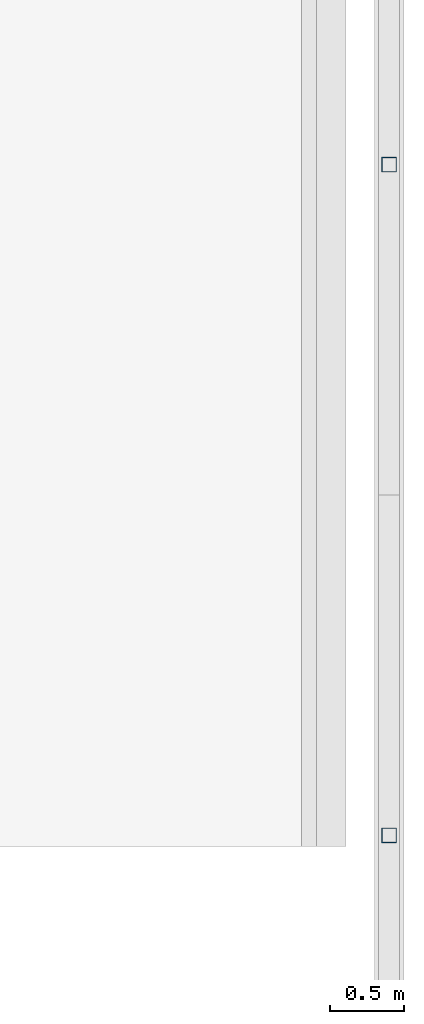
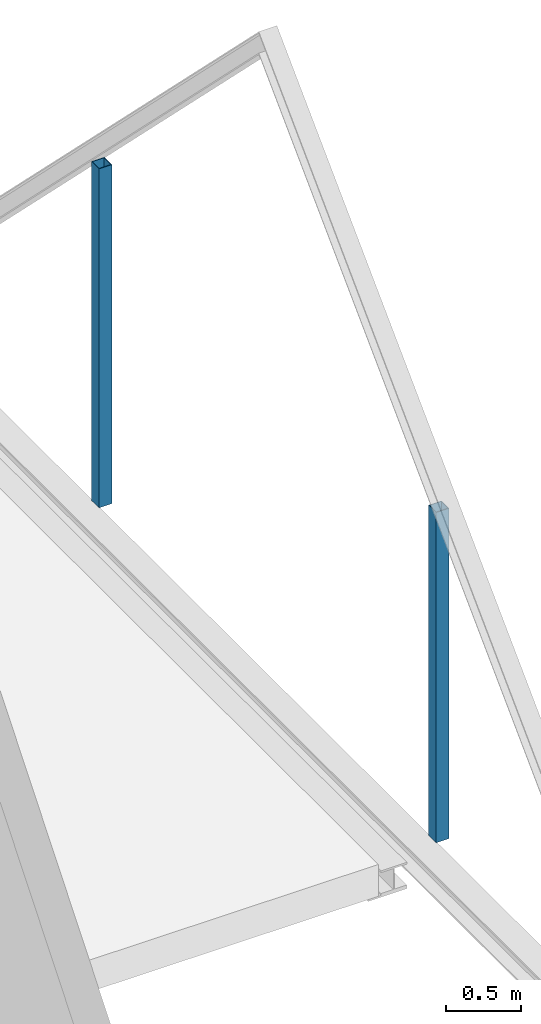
# One storey, part 4 of 14: 2 columns.
"""IFC2X3 building model written with IfcOpenShell, lengths in millimetres."""

from ifc_helpers import new_model, entity, si_unit, converted_unit, derived_unit, direction, frame, origin, place, context, subcontext, project, spatial, polyline, outline, extrude, source, transform, mapped, material, type_object, type_shapes, element, save


model = new_model("IFC2X3")

# Units and contexts
model_context = context("Model", 3, precision=0.01, world=origin(), true_north=direction((6.123031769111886e-17, 1.0)))
body_context = subcontext(model_context, "Body", "Model", "MODEL_VIEW")
ifc_project = project(units=[si_unit("LENGTHUNIT", "METRE", prefix="MILLI"), si_unit("AREAUNIT", "SQUARE_METRE", prefix="MILLI"), si_unit("VOLUMEUNIT", "CUBIC_METRE"), converted_unit("PLANEANGLEUNIT", "DEGREE", entity("IfcPlaneAngleMeasure", 0.017453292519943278), si_unit("PLANEANGLEUNIT", "RADIAN"), dimensions=[0, 0, 0, 0, 0, 0, 0]), si_unit("MASSUNIT", "GRAM", prefix="KILO"), derived_unit("MASSDENSITYUNIT", [(si_unit("MASSUNIT", "GRAM", prefix="KILO"), 1), (si_unit("LENGTHUNIT", "METRE"), -3)]), derived_unit("IONCONCENTRATIONUNIT", [(si_unit("MASSUNIT", "GRAM", prefix="KILO"), 1), (si_unit("LENGTHUNIT", "METRE"), -3)]), derived_unit("MOMENTOFINERTIAUNIT", [(si_unit("LENGTHUNIT", "METRE"), 4)]), si_unit("TIMEUNIT", "SECOND"), si_unit("FREQUENCYUNIT", "HERTZ"), si_unit("THERMODYNAMICTEMPERATUREUNIT", "DEGREE_CELSIUS"), derived_unit("THERMALTRANSMITTANCEUNIT", [(si_unit("MASSUNIT", "GRAM", prefix="KILO"), 1), (si_unit("THERMODYNAMICTEMPERATUREUNIT", "KELVIN"), -1), (si_unit("TIMEUNIT", "SECOND"), -3)]), derived_unit("THERMALCONDUCTANCEUNIT", [(si_unit("MASSUNIT", "GRAM", prefix="KILO"), 1), (si_unit("THERMODYNAMICTEMPERATUREUNIT", "KELVIN"), -1), (si_unit("TIMEUNIT", "SECOND"), -3), (si_unit("LENGTHUNIT", "METRE"), 1)]), derived_unit("VOLUMETRICFLOWRATEUNIT", [(si_unit("LENGTHUNIT", "METRE", prefix="DECI"), 3), (si_unit("TIMEUNIT", "SECOND"), -1)]), derived_unit("MASSFLOWRATEUNIT", [(si_unit("MASSUNIT", "GRAM", prefix="KILO"), 1), (si_unit("TIMEUNIT", "SECOND"), -1)]), derived_unit("ROTATIONALFREQUENCYUNIT", [(si_unit("TIMEUNIT", "SECOND"), -1)]), si_unit("ELECTRICCURRENTUNIT", "AMPERE"), si_unit("ELECTRICVOLTAGEUNIT", "VOLT"), si_unit("POWERUNIT", "WATT"), si_unit("FORCEUNIT", "NEWTON", prefix="KILO"), si_unit("ILLUMINANCEUNIT", "LUX"), si_unit("LUMINOUSFLUXUNIT", "LUMEN"), si_unit("LUMINOUSINTENSITYUNIT", "CANDELA"), si_unit("ENERGYUNIT", "JOULE"), derived_unit("USERDEFINED", [(si_unit("MASSUNIT", "GRAM", prefix="KILO"), -1), (si_unit("LENGTHUNIT", "METRE"), -2), (si_unit("TIMEUNIT", "SECOND"), 3), (si_unit("LUMINOUSFLUXUNIT", "LUMEN"), 1)]), derived_unit("USERDEFINED", [(si_unit("MASSUNIT", "GRAM", prefix="KILO"), 1), (si_unit("TIMEUNIT", "SECOND"), -3), (si_unit("LENGTHUNIT", "METRE"), 3), (si_unit("ELECTRICCURRENTUNIT", "AMPERE"), -2)]), derived_unit("SOUNDPOWERUNIT", [(si_unit("MASSUNIT", "GRAM", prefix="KILO"), 1), (si_unit("TIMEUNIT", "SECOND"), -3), (si_unit("LENGTHUNIT", "METRE"), 2)]), derived_unit("SOUNDPRESSUREUNIT", [(si_unit("MASSUNIT", "GRAM", prefix="KILO"), 1), (si_unit("LENGTHUNIT", "METRE"), -1), (si_unit("TIMEUNIT", "SECOND"), -2)]), derived_unit("LINEARVELOCITYUNIT", [(si_unit("LENGTHUNIT", "METRE"), 1), (si_unit("TIMEUNIT", "SECOND"), -1)]), si_unit("PRESSUREUNIT", "PASCAL"), derived_unit("USERDEFINED", [(si_unit("MASSUNIT", "GRAM", prefix="KILO"), 1), (si_unit("LENGTHUNIT", "METRE"), -2), (si_unit("TIMEUNIT", "SECOND"), -2)]), derived_unit("LINEARFORCEUNIT", [(si_unit("MASSUNIT", "GRAM", prefix="KILO"), 1), (si_unit("TIMEUNIT", "SECOND"), -2)]), derived_unit("PLANARFORCEUNIT", [(si_unit("MASSUNIT", "GRAM", prefix="KILO"), 1), (si_unit("LENGTHUNIT", "METRE"), -1), (si_unit("TIMEUNIT", "SECOND"), -2)]), derived_unit("SPECIFICHEATCAPACITYUNIT", [(si_unit("THERMODYNAMICTEMPERATUREUNIT", "KELVIN"), -1), (si_unit("LENGTHUNIT", "METRE"), 2), (si_unit("TIMEUNIT", "SECOND"), -2)]), derived_unit("HEATFLUXDENSITYUNIT", [(si_unit("MASSUNIT", "GRAM", prefix="KILO"), 1), (si_unit("TIMEUNIT", "SECOND"), -3)]), derived_unit("HEATINGVALUEUNIT", [(si_unit("LENGTHUNIT", "METRE"), 2), (si_unit("TIMEUNIT", "SECOND"), -2)]), derived_unit("VAPORPERMEABILITYUNIT", [(si_unit("LENGTHUNIT", "METRE"), -1), (si_unit("TIMEUNIT", "SECOND"), 1)]), derived_unit("DYNAMICVISCOSITYUNIT", [(si_unit("MASSUNIT", "GRAM", prefix="KILO"), 1), (si_unit("TIMEUNIT", "SECOND"), -1), (si_unit("LENGTHUNIT", "METRE"), -1)]), derived_unit("THERMALEXPANSIONCOEFFICIENTUNIT", [(si_unit("THERMODYNAMICTEMPERATUREUNIT", "KELVIN"), -1)]), derived_unit("MODULUSOFELASTICITYUNIT", [(si_unit("MASSUNIT", "GRAM", prefix="KILO"), 1), (si_unit("LENGTHUNIT", "METRE"), -1), (si_unit("TIMEUNIT", "SECOND"), -2)]), derived_unit("ISOTHERMALMOISTURECAPACITYUNIT", [(si_unit("MASSUNIT", "GRAM", prefix="KILO"), -1), (si_unit("LENGTHUNIT", "METRE"), 3)]), derived_unit("MOISTUREDIFFUSIVITYUNIT", [(si_unit("TIMEUNIT", "SECOND"), -1), (si_unit("LENGTHUNIT", "METRE"), 2)]), derived_unit("MASSPERLENGTHUNIT", [(si_unit("MASSUNIT", "GRAM", prefix="KILO"), 1), (si_unit("LENGTHUNIT", "METRE"), -1)]), derived_unit("THERMALRESISTANCEUNIT", [(si_unit("MASSUNIT", "GRAM", prefix="KILO"), -1), (si_unit("TIMEUNIT", "SECOND"), 3), (si_unit("THERMODYNAMICTEMPERATUREUNIT", "KELVIN"), 1)]), derived_unit("ACCELERATIONUNIT", [(si_unit("LENGTHUNIT", "METRE"), 1), (si_unit("TIMEUNIT", "SECOND"), -2)]), derived_unit("ANGULARVELOCITYUNIT", [(si_unit("TIMEUNIT", "SECOND"), -1), (si_unit("PLANEANGLEUNIT", "RADIAN"), 1)]), derived_unit("LINEARSTIFFNESSUNIT", [(si_unit("MASSUNIT", "GRAM", prefix="KILO"), 1), (si_unit("TIMEUNIT", "SECOND"), -2)]), derived_unit("WARPINGCONSTANTUNIT", [(si_unit("LENGTHUNIT", "METRE"), 6)]), derived_unit("LINEARMOMENTUNIT", [(si_unit("MASSUNIT", "GRAM", prefix="KILO"), 1), (si_unit("LENGTHUNIT", "METRE"), 1), (si_unit("TIMEUNIT", "SECOND"), -2)]), derived_unit("TORQUEUNIT", [(si_unit("MASSUNIT", "GRAM", prefix="KILO"), 1), (si_unit("LENGTHUNIT", "METRE"), 2), (si_unit("TIMEUNIT", "SECOND"), -2)])], contexts=[model_context])

# Site, building, storey
site_placement = place(None, origin())
site = spatial("IfcSite", under=ifc_project, at=site_placement, Name="Default", CompositionType="ELEMENT")
building_placement = place(site_placement, origin())
building = spatial("IfcBuilding", under=site, at=building_placement, CompositionType="ELEMENT")
storey_placement = place(building_placement, frame((0.0, 0.0, 3730.0)))
storey = spatial("IfcBuildingStorey", under=building, at=storey_placement, Name="V1 1e verd. (bk ruwe vloer)", CompositionType="ELEMENT", Elevation=3729.9999999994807)

# Columns
ifc_material = material(Name="Metal - Steel - S275 J0H (standaard-kokers/buizen)")
column_type_1 = type_object("IfcColumnType", Name="btk_staal - Koker:K100x100x5.0", PredefinedType="COLUMN", material=ifc_material)
shared_shape_1 = source(origin(), body_context, "Body", "SweptSolid", [
    extrude(outline(polyline([(-50.0, -50.0), (50.0, -50.0), (50.0, 50.0), (-50.0, 50.0), (-50.0, -50.0)]), holes=[polyline([(-45.0, -45.0), (-45.0, 45.0), (45.0, 45.0), (45.0, -45.0), (-45.0, -45.0)])]), frame((34439.97719495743, 35197.84751726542, 3730.0), z_axis=(0.0, 0.0, 1.0), x_axis=(-1.0, 0.0, 0.0)), (0.0, 0.0, 1.0), 2698.1565918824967),
])
type_shapes(column_type_1, [shared_shape_1])
column_1_placement = place(storey_placement, frame((0.0, 0.0, -3730.0)))
element("IfcColumn", 1, at=column_1_placement, inside=storey, type_object=column_type_1, material=ifc_material, Name="btk_staal - Koker:K100x100x5.0", ObjectType="btk_staal - Koker:K100x100x5.0", context=body_context, shape_type="MappedRepresentation", body=[
    mapped(shared_shape_1, transform((0.0, 0.0, 0.0), scale=1.0)),
])
column_type_2 = type_object("IfcColumnType", Name="btk_staal - Koker:K100x100x5.0", PredefinedType="COLUMN", material=ifc_material)
shared_shape_2 = source(origin(), body_context, "Body", "SweptSolid", [
    extrude(outline(polyline([(-50.0, -50.0), (50.0, -50.0), (50.0, 50.0), (-50.0, 50.0), (-50.0, -50.0)]), holes=[polyline([(-45.0, -45.0), (-45.0, 45.0), (45.0, 45.0), (45.0, -45.0), (-45.0, -45.0)])]), frame((34439.97719495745, 39708.5172330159, 3730.0), z_axis=(0.0, 0.0, 1.0), x_axis=(-1.0, 0.0, 0.0)), (0.0, 0.0, 1.0), 2769.296705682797),
])
type_shapes(column_type_2, [shared_shape_2])
column_2_placement = place(storey_placement, frame((0.0, 0.0, -3730.0)))
element("IfcColumn", 2, at=column_2_placement, inside=storey, type_object=column_type_2, material=ifc_material, Name="btk_staal - Koker:K100x100x5.0", ObjectType="btk_staal - Koker:K100x100x5.0", context=body_context, shape_type="MappedRepresentation", body=[
    mapped(shared_shape_2, transform((0.0, 0.0, 0.0), scale=1.0)),
])

save(model, "model.ifc")
